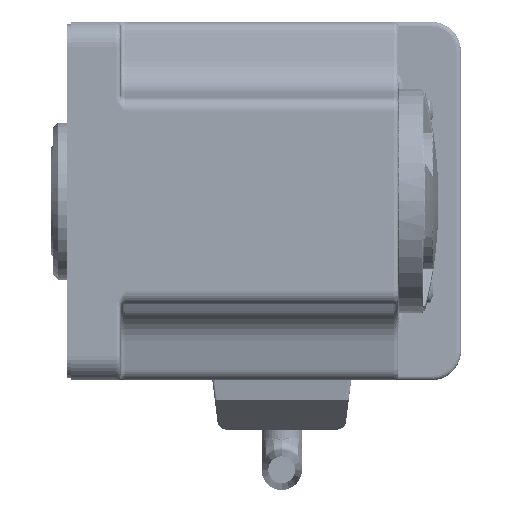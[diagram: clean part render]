
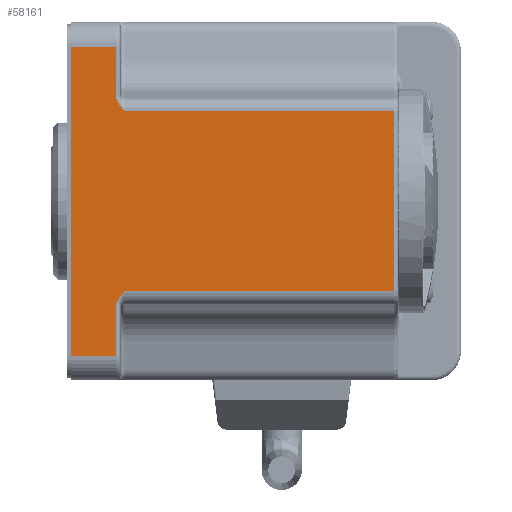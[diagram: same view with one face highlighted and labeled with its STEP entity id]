
A CAD part, front view. The second image highlights one B-rep face of the part: STEP entity #58161.
In plain terms, the highlighted planar face has unit normal (0, -1, 0) as drawn and (0, 0, -1) by its records, which use the part's own axes.
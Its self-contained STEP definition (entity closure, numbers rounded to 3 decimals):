
#2621 = LINE ( 'NONE', #43261, #98081 ) ;
#3893 = CARTESIAN_POINT ( 'NONE',  ( 36.934, -22.878, -115. ) ) ;
#4422 = CARTESIAN_POINT ( 'NONE',  ( 36.999, 23.504, -115. ) ) ;
#4577 = DIRECTION ( 'NONE',  ( 1., 0., 0. ) ) ;
#5063 = CARTESIAN_POINT ( 'NONE',  ( 36.62, 22.095, -115. ) ) ;
#5468 = LINE ( 'NONE', #46127, #106863 ) ;
#6895 = CARTESIAN_POINT ( 'NONE',  ( 35., 20.096, -115. ) ) ;
#8060 = EDGE_CURVE ( 'NONE', #58277, #89728, #5468, .T. ) ;
#9862 = CARTESIAN_POINT ( 'NONE',  ( -89.137, 20.096, -115. ) ) ;
#10909 = LINE ( 'NONE', #51611, #104729 ) ;
#11090 = DIRECTION ( 'NONE',  ( 1., 0., 0. ) ) ;
#13660 = B_SPLINE_CURVE_WITH_KNOTS ( 'NONE', 3,
 ( #95841, #4422, #45083, #85829, #126497, #35041, #75795, #116463, #25026, #65775, #106488, #15040, #55780, #96505, #5063, #45713, #86470, #127136, #35689, #76462, #117137, #25690, #66438, #107148, #15686, #56413 ),
 .UNSPECIFIED., .F., .F.,
 ( 4, 1, 1, 1, 1, 1, 1, 1, 1, 1, 1, 1, 1, 1, 1, 1, 1, 1, 1, 1, 1, 1, 1, 4 ),
 ( 0., 0.041, 0.08, 0.117, 0.151, 0.184, 0.215, 0.243, 0.27, 0.295, 0.317, 0.338, 0.356, 0.372, 0.387, 0.399, 0.409, 0.417, 0.423, 0.427, 0.601, 0.682, 0.842, 1. ),
 .UNSPECIFIED. ) ;
#13736 = EDGE_CURVE ( 'NONE', #88418, #34707, #31057, .T. ) ;
#13868 = CARTESIAN_POINT ( 'NONE',  ( 36.164, -21.357, -115. ) ) ;
#14532 = PLANE ( 'NONE',  #106162 ) ;
#15040 = CARTESIAN_POINT ( 'NONE',  ( 36.718, 22.299, -115. ) ) ;
#15345 = VERTEX_POINT ( 'NONE', #80560 ) ;
#15686 = CARTESIAN_POINT ( 'NONE',  ( 35.154, 20.248, -115. ) ) ;
#16049 = VECTOR ( 'NONE', #105533, 1000. ) ;
#19601 = EDGE_CURVE ( 'NONE', #89728, #58924, #13660, .T. ) ;
#23885 = CARTESIAN_POINT ( 'NONE',  ( 35.243, -20.339, -115. ) ) ;
#24110 = LINE ( 'NONE', #64829, #16049 ) ;
#24466 = VERTEX_POINT ( 'NONE', #80734 ) ;
#25026 = CARTESIAN_POINT ( 'NONE',  ( 36.829, 22.582, -115. ) ) ;
#25690 = CARTESIAN_POINT ( 'NONE',  ( 36.191, 21.4, -115. ) ) ;
#25799 = LINE ( 'NONE', #66544, #89895 ) ;
#28108 = DIRECTION ( 'NONE',  ( 1., 0., 0. ) ) ;
#28349 = EDGE_CURVE ( 'NONE', #35795, #105125, #78886, .T. ) ;
#31057 = LINE ( 'NONE', #102526, #41544 ) ;
#34707 = VERTEX_POINT ( 'NONE', #123194 ) ;
#35041 = CARTESIAN_POINT ( 'NONE',  ( 36.933, 22.946, -115. ) ) ;
#35689 = CARTESIAN_POINT ( 'NONE',  ( 36.533, 21.933, -115. ) ) ;
#35795 = VERTEX_POINT ( 'NONE', #123221 ) ;
#39369 = CARTESIAN_POINT ( 'NONE',  ( 37., -23.561, -115. ) ) ;
#39928 = VERTEX_POINT ( 'NONE', #39369 ) ;
#41544 = VECTOR ( 'NONE', #11090, 1000. ) ;
#43261 = CARTESIAN_POINT ( 'NONE',  ( -89.137, 34.5, -115. ) ) ;
#43560 = ORIENTED_EDGE ( 'NONE', *, *, #63764, .F. ) ;
#43897 = VECTOR ( 'NONE', #50538, 1000. ) ;
#44554 = CARTESIAN_POINT ( 'NONE',  ( 37., -23.214, -115. ) ) ;
#45083 = CARTESIAN_POINT ( 'NONE',  ( 36.997, 23.395, -115. ) ) ;
#45713 = CARTESIAN_POINT ( 'NONE',  ( 36.593, 22.043, -115. ) ) ;
#46127 = CARTESIAN_POINT ( 'NONE',  ( 37., 34.5, -115. ) ) ;
#48622 = ORIENTED_EDGE ( 'NONE', *, *, #92540, .F. ) ;
#50538 = DIRECTION ( 'NONE',  ( -1., 0., 0. ) ) ;
#50967 = ORIENTED_EDGE ( 'NONE', *, *, #19601, .F. ) ;
#51611 = CARTESIAN_POINT ( 'NONE',  ( -25., 34.5, -115. ) ) ;
#54574 = CARTESIAN_POINT ( 'NONE',  ( 36.543, -21.926, -115. ) ) ;
#55267 = CARTESIAN_POINT ( 'NONE',  ( -89.137, 34.5, -115. ) ) ;
#55780 = CARTESIAN_POINT ( 'NONE',  ( 36.683, 22.223, -115. ) ) ;
#56413 = CARTESIAN_POINT ( 'NONE',  ( 35., 20.096, -115. ) ) ;
#58161 = ADVANCED_FACE ( 'NONE', ( #105973 ), #14532, .F. ) ;
#58277 = VERTEX_POINT ( 'NONE', #68582 ) ;
#58924 = VERTEX_POINT ( 'NONE', #6895 ) ;
#63722 = EDGE_CURVE ( 'NONE', #15345, #58277, #2621, .T. ) ;
#63764 = EDGE_CURVE ( 'NONE', #105125, #39928, #100319, .T. ) ;
#64600 = CARTESIAN_POINT ( 'NONE',  ( 35.485, -20.581, -115. ) ) ;
#64829 = CARTESIAN_POINT ( 'NONE',  ( 37., 34.5, -115. ) ) ;
#65775 = CARTESIAN_POINT ( 'NONE',  ( 36.792, 22.478, -115. ) ) ;
#66205 = ORIENTED_EDGE ( 'NONE', *, *, #92964, .T. ) ;
#66438 = CARTESIAN_POINT ( 'NONE',  ( 35.831, 20.96, -115. ) ) ;
#66544 = CARTESIAN_POINT ( 'NONE',  ( 47., 34.5, -115. ) ) ;
#68582 = CARTESIAN_POINT ( 'NONE',  ( 37., 34.5, -115. ) ) ;
#68751 = VECTOR ( 'NONE', #28108, 1000. ) ;
#72038 = EDGE_LOOP ( 'NONE', ( #121169, #50967, #118634, #90110, #66205, #128337, #95450, #43560, #79098, #48622 ) ) ;
#75795 = CARTESIAN_POINT ( 'NONE',  ( 36.901, 22.815, -115. ) ) ;
#76462 = CARTESIAN_POINT ( 'NONE',  ( 36.52, 21.911, -115. ) ) ;
#78873 = CARTESIAN_POINT ( 'NONE',  ( 37., 23.561, -115. ) ) ;
#78886 = LINE ( 'NONE', #119565, #68751 ) ;
#79098 = ORIENTED_EDGE ( 'NONE', *, *, #28349, .F. ) ;
#80560 = CARTESIAN_POINT ( 'NONE',  ( 47., 34.5, -115. ) ) ;
#80734 = CARTESIAN_POINT ( 'NONE',  ( -25., 20.096, -115. ) ) ;
#84006 = DIRECTION ( 'NONE',  ( -1., 0., 0. ) ) ;
#85317 = CARTESIAN_POINT ( 'NONE',  ( 37., -23.561, -115. ) ) ;
#85829 = CARTESIAN_POINT ( 'NONE',  ( 36.982, 23.235, -115. ) ) ;
#86470 = CARTESIAN_POINT ( 'NONE',  ( 36.569, 21.999, -115. ) ) ;
#86889 = DIRECTION ( 'NONE',  ( 0., -1., 0. ) ) ;
#88418 = VERTEX_POINT ( 'NONE', #101950 ) ;
#89728 = VERTEX_POINT ( 'NONE', #78873 ) ;
#89895 = VECTOR ( 'NONE', #107250, 1000. ) ;
#90110 = ORIENTED_EDGE ( 'NONE', *, *, #63722, .F. ) ;
#92356 = DIRECTION ( 'NONE',  ( 0., -1., 0. ) ) ;
#92540 = EDGE_CURVE ( 'NONE', #24466, #35795, #10909, .T. ) ;
#92964 = EDGE_CURVE ( 'NONE', #15345, #34707, #25799, .T. ) ;
#95306 = CARTESIAN_POINT ( 'NONE',  ( 36.703, -22.228, -115. ) ) ;
#95450 = ORIENTED_EDGE ( 'NONE', *, *, #102493, .F. ) ;
#95841 = CARTESIAN_POINT ( 'NONE',  ( 37., 23.561, -115. ) ) ;
#95995 = DIRECTION ( 'NONE',  ( 0., 0., 1. ) ) ;
#96505 = CARTESIAN_POINT ( 'NONE',  ( 36.65, 22.155, -115. ) ) ;
#98081 = VECTOR ( 'NONE', #84006, 1000. ) ;
#100319 = B_SPLINE_CURVE_WITH_KNOTS ( 'NONE', 3,
 ( #115321, #23885, #64600, #105301, #13868, #54574, #95306, #3893, #44554, #85317 ),
 .UNSPECIFIED., .F., .F.,
 ( 4, 2, 2, 2, 4 ),
 ( 0., 0.25, 0.5, 0.75, 1. ),
 .UNSPECIFIED. ) ;
#101279 = LINE ( 'NONE', #9862, #43897 ) ;
#101950 = CARTESIAN_POINT ( 'NONE',  ( 37., -34.5, -115. ) ) ;
#102493 = EDGE_CURVE ( 'NONE', #39928, #88418, #24110, .T. ) ;
#102526 = CARTESIAN_POINT ( 'NONE',  ( -89.137, -34.5, -115. ) ) ;
#103218 = EDGE_CURVE ( 'NONE', #58924, #24466, #101279, .T. ) ;
#104729 = VECTOR ( 'NONE', #92356, 1000. ) ;
#105125 = VERTEX_POINT ( 'NONE', #117594 ) ;
#105301 = CARTESIAN_POINT ( 'NONE',  ( 35.946, -21.09, -115. ) ) ;
#105533 = DIRECTION ( 'NONE',  ( 0., -1., 0. ) ) ;
#105973 = FACE_OUTER_BOUND ( 'NONE', #72038, .T. ) ;
#106162 = AXIS2_PLACEMENT_3D ( 'NONE', #55267, #95995, #4577 ) ;
#106488 = CARTESIAN_POINT ( 'NONE',  ( 36.754, 22.384, -115. ) ) ;
#106863 = VECTOR ( 'NONE', #86889, 1000. ) ;
#107148 = CARTESIAN_POINT ( 'NONE',  ( 35.465, 20.552, -115. ) ) ;
#107250 = DIRECTION ( 'NONE',  ( 0., -1., 0. ) ) ;
#115321 = CARTESIAN_POINT ( 'NONE',  ( 35., -20.096, -115. ) ) ;
#116463 = CARTESIAN_POINT ( 'NONE',  ( 36.866, 22.694, -115. ) ) ;
#117137 = CARTESIAN_POINT ( 'NONE',  ( 36.394, 21.694, -115. ) ) ;
#117594 = CARTESIAN_POINT ( 'NONE',  ( 35., -20.096, -115. ) ) ;
#118634 = ORIENTED_EDGE ( 'NONE', *, *, #8060, .F. ) ;
#119565 = CARTESIAN_POINT ( 'NONE',  ( -89.137, -20.096, -115. ) ) ;
#121169 = ORIENTED_EDGE ( 'NONE', *, *, #103218, .F. ) ;
#123194 = CARTESIAN_POINT ( 'NONE',  ( 47., -34.5, -115. ) ) ;
#123221 = CARTESIAN_POINT ( 'NONE',  ( -25., -20.096, -115. ) ) ;
#126497 = CARTESIAN_POINT ( 'NONE',  ( 36.96, 23.086, -115. ) ) ;
#127136 = CARTESIAN_POINT ( 'NONE',  ( 36.549, 21.962, -115. ) ) ;
#128337 = ORIENTED_EDGE ( 'NONE', *, *, #13736, .F. ) ;
